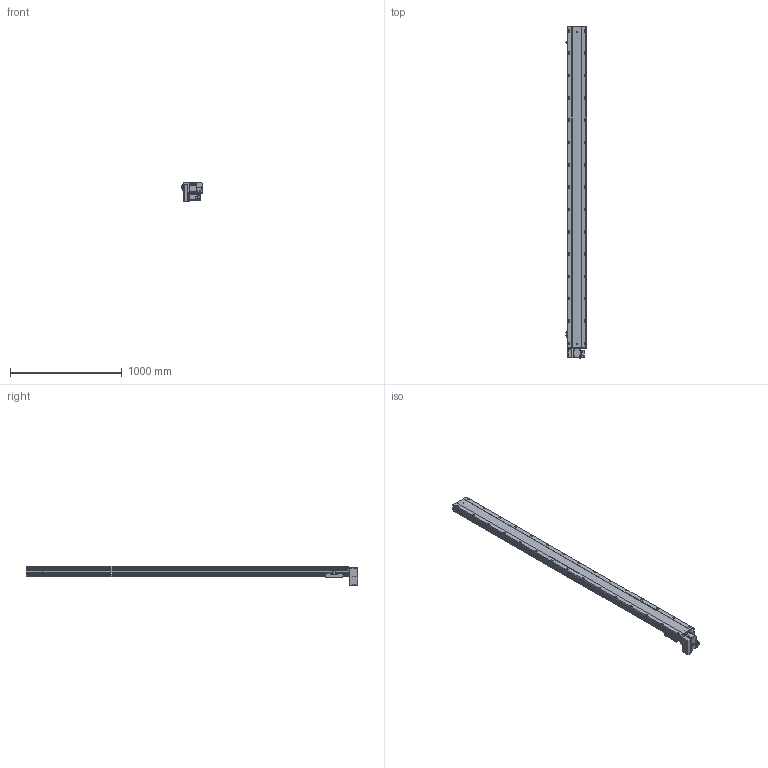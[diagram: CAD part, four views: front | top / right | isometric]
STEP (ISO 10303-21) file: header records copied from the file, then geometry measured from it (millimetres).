
FILE_DESCRIPTION (( 'STEP AP203' ), '1' );
FILE_NAME ('BTB17-L40-2600-RU-M40-C4.STEP', '2022-07-20T09:17:54', ( 'CXY' ), ( 'BT' ), 'SwSTEP 2.0', 'SolidWorks 2016', '' );
FILE_SCHEMA (( 'CONFIG_CONTROL_DESIGN' ));
Length unit declared in the file: millimetre
Products named in the file (11): BTB17-L-04; FS-08-T40; BTB17-L-23; BTB17-L-HZ; BTB17-L-菁釱_XD; BTB17-L40-2600-RU-M40-C4; BTB17-L-01; BTB17-L-24; M40; FS-07-T40(1); BTB17-L-06
Assembly tree (13 placements, depth 2):
  BTB17-L40-2600-RU-M40-C4
    BTB17-L-菁釱_XD
    BTB17-L-01
    BTB17-L-04  x3
    BTB17-L-06
    BTB17-L-23  x2
    BTB17-L-24
    BTB17-L-HZ
    FS-07-T40(1)
    FS-08-T40
    M40
Bounding box: 183.7 x 2975.3 x 171.5 mm (x, y, z)
Volume: 24836867.6 mm3; surface area: 3175279.6 mm2
Topology: 22 solids, 22 shells, 1759 faces, 4603 edges, 2904 vertices
Faces by surface type: plane 923, cylinder 620, cone 184, torus 16, bspline 16
Entity records: 46126 total; most frequent: CARTESIAN_POINT 8926, DIRECTION 7653, ORIENTED_EDGE 7294, EDGE_CURVE 3647, AXIS2_PLACEMENT_3D 2653, VERTEX_POINT 2372, VECTOR 2347, LINE 2347
